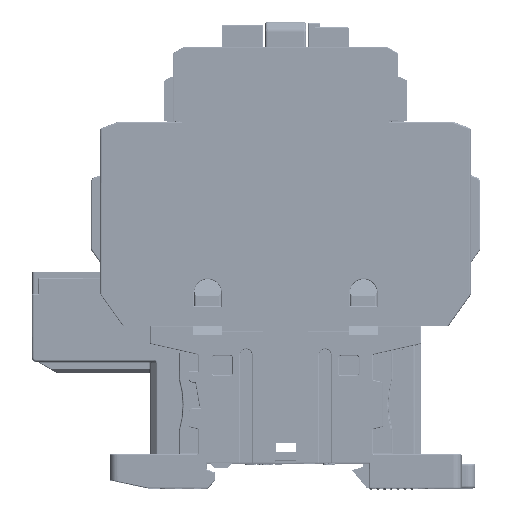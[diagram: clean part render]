
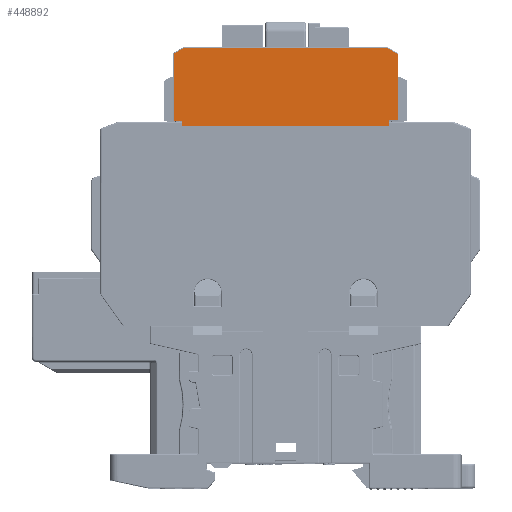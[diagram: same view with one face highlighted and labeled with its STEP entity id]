
A CAD part, top view. The second image highlights one B-rep face of the part: STEP entity #448892.
In plain terms, the highlighted planar face has unit normal (0, 0, 1).
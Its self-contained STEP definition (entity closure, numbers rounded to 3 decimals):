
#25816=DIRECTION('',(0.,-1.,0.));
#25817=VECTOR('',#25816,0.234);
#25818=CARTESIAN_POINT('',(31.1,81.3,-0.7));
#25819=LINE('',#25818,#25817);
#99384=DIRECTION('',(0.,1.,0.));
#99385=VECTOR('',#99384,0.766);
#99386=CARTESIAN_POINT('',(31.1,80.3,-0.7));
#99387=LINE('',#99386,#99385);
#99397=DIRECTION('',(1.,0.,0.));
#99398=VECTOR('',#99397,1.8);
#99399=CARTESIAN_POINT('',(29.3,81.3,-0.7));
#99400=LINE('',#99399,#99398);
#99401=DIRECTION('',(0.,-1.,0.));
#99402=VECTOR('',#99401,14.887);
#99403=CARTESIAN_POINT('',(29.3,96.187,-0.7));
#99404=LINE('',#99403,#99402);
#99405=DIRECTION('',(-0.857,-0.514,0.));
#99406=VECTOR('',#99405,2.747);
#99407=CARTESIAN_POINT('',(31.655,97.6,-0.7));
#99408=LINE('',#99407,#99406);
#99409=DIRECTION('',(-0.857,0.514,0.));
#99410=VECTOR('',#99409,2.747);
#99411=CARTESIAN_POINT('',(78.9,96.187,-0.7));
#99412=LINE('',#99411,#99410);
#99413=DIRECTION('',(0.,1.,0.));
#99414=VECTOR('',#99413,14.687);
#99415=CARTESIAN_POINT('',(78.9,81.5,-0.7));
#99416=LINE('',#99415,#99414);
#99417=DIRECTION('',(-1.,0.,0.));
#99418=VECTOR('',#99417,1.8);
#99419=CARTESIAN_POINT('',(78.9,81.5,-0.7));
#99420=LINE('',#99419,#99418);
#99421=DIRECTION('',(1.,0.,0.));
#99422=VECTOR('',#99421,46.);
#99423=CARTESIAN_POINT('',(31.1,80.3,-0.7));
#99424=LINE('',#99423,#99422);
#99433=DIRECTION('',(0.,1.,0.));
#99434=VECTOR('',#99433,0.766);
#99435=CARTESIAN_POINT('',(77.1,80.3,-0.7));
#99436=LINE('',#99435,#99434);
#99447=DIRECTION('',(0.,1.,0.));
#99448=VECTOR('',#99447,0.434);
#99449=CARTESIAN_POINT('',(77.1,81.066,-0.7));
#99450=LINE('',#99449,#99448);
#139515=DIRECTION('',(-1.,0.,0.));
#139516=VECTOR('',#139515,44.889);
#139517=CARTESIAN_POINT('',(76.545,97.6,-0.7));
#139518=LINE('',#139517,#139516);
#257045=CARTESIAN_POINT('',(31.1,81.3,-0.7));
#257046=VERTEX_POINT('',#257045);
#257330=CARTESIAN_POINT('',(29.3,81.3,-0.7));
#257332=VERTEX_POINT('',#257330);
#257336=CARTESIAN_POINT('',(29.3,96.187,-0.7));
#257337=VERTEX_POINT('',#257336);
#257342=CARTESIAN_POINT('',(31.655,97.6,-0.7));
#257343=VERTEX_POINT('',#257342);
#257350=CARTESIAN_POINT('',(78.9,96.187,-0.7));
#257351=CARTESIAN_POINT('',(76.545,97.6,-0.7));
#257352=VERTEX_POINT('',#257350);
#257353=VERTEX_POINT('',#257351);
#258636=CARTESIAN_POINT('',(78.9,81.5,-0.7));
#258637=CARTESIAN_POINT('',(77.1,81.5,-0.7));
#258638=VERTEX_POINT('',#258636);
#258639=VERTEX_POINT('',#258637);
#259459=CARTESIAN_POINT('',(31.1,80.3,-0.7));
#259460=CARTESIAN_POINT('',(77.1,80.3,-0.7));
#259461=VERTEX_POINT('',#259459);
#259462=VERTEX_POINT('',#259460);
#259487=CARTESIAN_POINT('',(77.1,81.066,-0.7));
#259488=VERTEX_POINT('',#259487);
#259489=CARTESIAN_POINT('',(31.1,81.066,-0.7));
#259490=VERTEX_POINT('',#259489);
#448863=CARTESIAN_POINT('',(54.1,81.3,-0.7));
#448864=DIRECTION('',(0.,0.,1.));
#448865=DIRECTION('',(1.,0.,0.));
#448866=AXIS2_PLACEMENT_3D('',#448863,#448864,#448865);
#448867=PLANE('',#448866);
#448869=ORIENTED_EDGE('',*,*,#448868,.F.);
#448870=ORIENTED_EDGE('',*,*,#448842,.T.);
#448871=ORIENTED_EDGE('',*,*,#307699,.F.);
#448873=ORIENTED_EDGE('',*,*,#448872,.F.);
#448875=ORIENTED_EDGE('',*,*,#448874,.F.);
#448877=ORIENTED_EDGE('',*,*,#448876,.F.);
#448879=ORIENTED_EDGE('',*,*,#448878,.F.);
#448881=ORIENTED_EDGE('',*,*,#448880,.F.);
#448883=ORIENTED_EDGE('',*,*,#448882,.F.);
#448885=ORIENTED_EDGE('',*,*,#448884,.T.);
#448887=ORIENTED_EDGE('',*,*,#448886,.F.);
#448889=ORIENTED_EDGE('',*,*,#448888,.F.);
#448890=EDGE_LOOP('',(#448869,#448870,#448871,#448873,#448875,#448877,#448879,
#448881,#448883,#448885,#448887,#448889));
#448891=FACE_OUTER_BOUND('',#448890,.F.);
#448892=ADVANCED_FACE('',(#448891),#448867,.T.);
#307699=EDGE_CURVE('',#257046,#259490,#25819,.T.);
#448842=EDGE_CURVE('',#259461,#259490,#99387,.T.);
#448868=EDGE_CURVE('',#259461,#259462,#99424,.T.);
#448872=EDGE_CURVE('',#257332,#257046,#99400,.T.);
#448874=EDGE_CURVE('',#257337,#257332,#99404,.T.);
#448876=EDGE_CURVE('',#257343,#257337,#99408,.T.);
#448878=EDGE_CURVE('',#257353,#257343,#139518,.T.);
#448880=EDGE_CURVE('',#257352,#257353,#99412,.T.);
#448882=EDGE_CURVE('',#258638,#257352,#99416,.T.);
#448884=EDGE_CURVE('',#258638,#258639,#99420,.T.);
#448886=EDGE_CURVE('',#259488,#258639,#99450,.T.);
#448888=EDGE_CURVE('',#259462,#259488,#99436,.T.);
